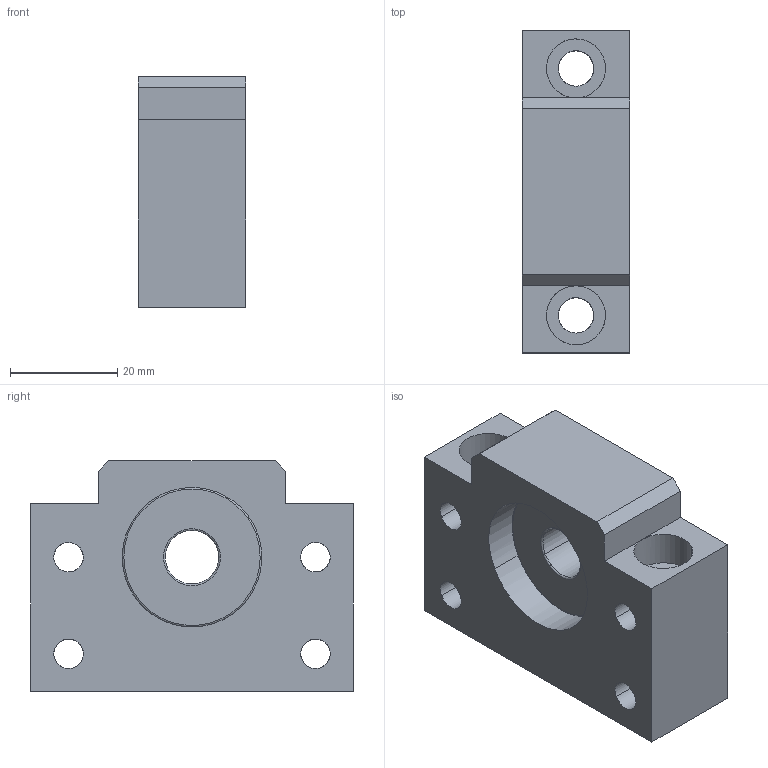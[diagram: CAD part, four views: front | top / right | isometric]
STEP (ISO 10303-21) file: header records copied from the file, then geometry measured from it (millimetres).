
FILE_DESCRIPTION(('CATIA V5 STEP Exchange'),'2;1');
FILE_NAME('D:\서포트 완성도면\BF\BF12.stp','2014-03-17T10:25:02+00:00',('none'),('none'),'CATIA Version 5 Release 18 GA (IN-10)','CATIA V5 STEP AP203','none');
FILE_SCHEMA(('CONFIG_CONTROL_DESIGN'));
Length unit declared in the file: millimetre
Products named in the file (1): BF12
Assembly tree (2 placements, depth 2):
  BF12
    #56
    #2271
Bounding box: 20 x 60 x 43 mm (x, y, z)
Volume: 35996.5 mm3; surface area: 13288.6 mm2
Topology: 2 solids, 2 shells, 58 faces, 176 edges, 114 vertices
Faces by surface type: cylinder 30, plane 16, torus 12
Entity records: 2860 total; most frequent: CARTESIAN_POINT 1331, ORIENTED_EDGE 352, DIRECTION 214, EDGE_CURVE 176, VERTEX_POINT 114, AXIS2_PLACEMENT_3D 92, EDGE_LOOP 74, VECTOR 70
